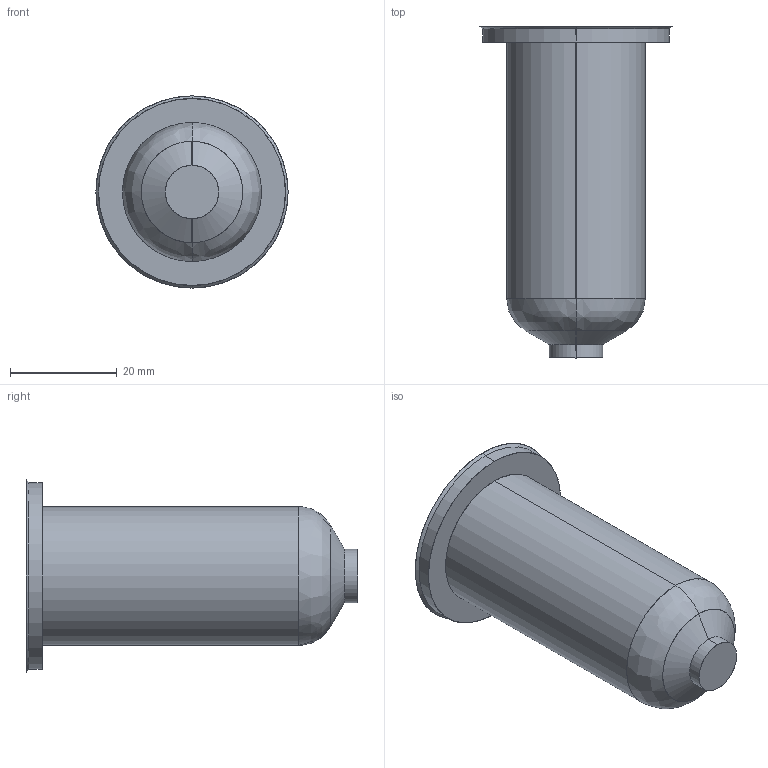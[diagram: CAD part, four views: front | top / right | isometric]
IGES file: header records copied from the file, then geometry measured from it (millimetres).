
Start section: SolidWorks IGES file using analytic representation for surfaces
Global section: file name: C:\Users\luca.EMPAD\Desktop\TEM\Sede UGBE3501-M-A C-59 L-89 P-0.IGS; native system: SolidWorks 2012; preprocessor: SolidWorks 2012; author: luca; date: 120330.142734; units: millimetre
Bounding box: 36 x 62.15 x 36 mm (x, y, z)
Surface area: 6659.4 mm2 (no closed solid volume)
Topology: 0 solids, 0 shells, 15 faces, 240 edges, 240 vertices
Faces by surface type: revolution 10, bspline 5
